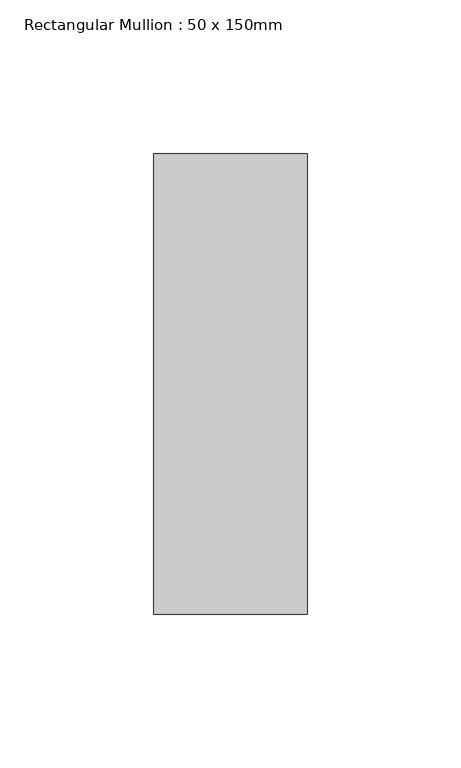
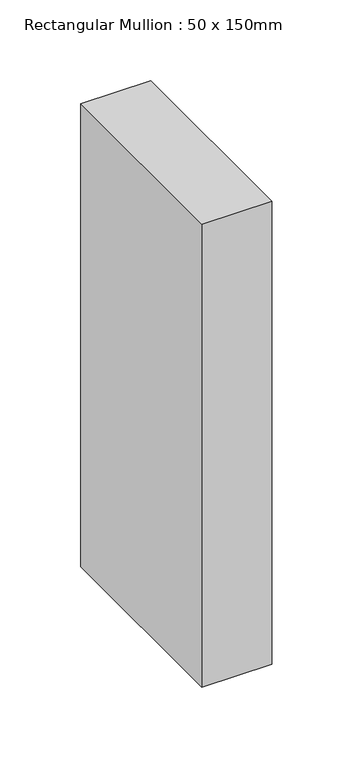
"""IFC4 building model written with IfcOpenShell, lengths in millimetres: member geometry, Rectangular Mullion : 50 x 150mm."""

from ifc_helpers import new_model, si_unit, frame, origin, place, context, project, spatial, polyline, outline, extrude, source, transform, mapped, element, save


def rectangular_mullion_50_x_150mm_7a83b0e5(model_context):
    return source(origin(), model_context, "Body", "SweptSolid", [
        extrude(outline(polyline([(25.0, 75.0), (25.0, -75.0), (-25.0, -75.0), (-25.0, 75.0), (25.0, 75.0)])), frame((0.0, 0.0, -350.0), z_axis=(0.0, 0.0, 1.0), x_axis=(1.0, 0.0, 0.0)), (0.0, 0.0, 1.0), 350.0),
    ])


if __name__ == "__main__":
    model = new_model("IFC4")
    model_context = context("Model", 3, world=origin())
    ifc_project = project(units=[si_unit("LENGTHUNIT", "METRE", prefix="MILLI")], contexts=[model_context])
    site = spatial("IfcSite", under=ifc_project)
    building = spatial("IfcBuilding", under=site)
    placement = place(None, origin())
    rectangular_mullion_50_x_150mm_shape = rectangular_mullion_50_x_150mm_7a83b0e5(model_context)
    element("IfcMember", 1, ObjectType="Rectangular Mullion : 50 x 150mm", at=placement, inside=building, context=model_context, shape_type="MappedRepresentation", body=[
        mapped(rectangular_mullion_50_x_150mm_shape, transform((0.0, 0.0, 0.0), x_axis=(1.0, 0.0, 0.0), y_axis=(0.0, 1.0, 0.0), z_axis=(0.0, 0.0, 1.0))),
    ])
    save(model, "model.ifc")
